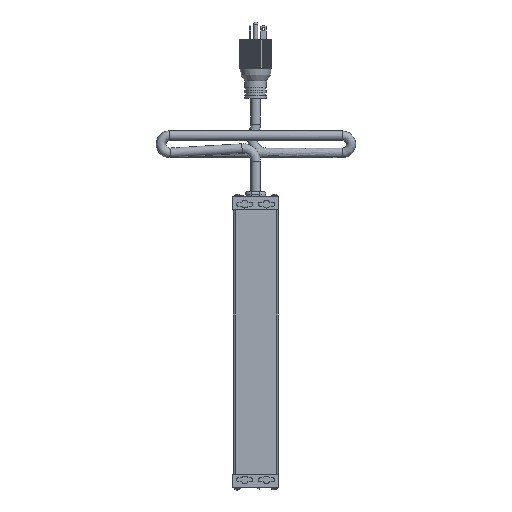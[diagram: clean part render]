
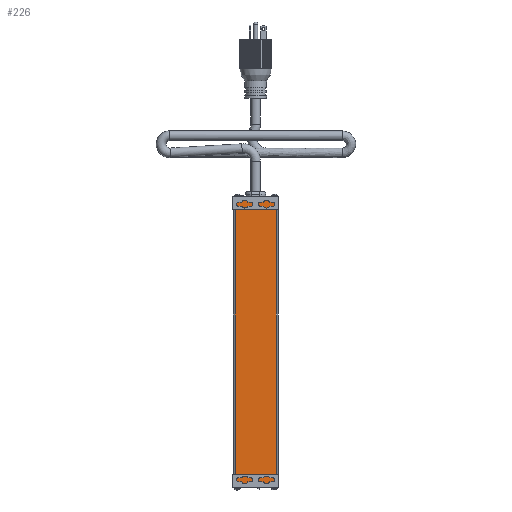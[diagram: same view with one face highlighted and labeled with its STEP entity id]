
A CAD part, front view. The second image highlights one B-rep face of the part: STEP entity #226.
In plain terms, the highlighted planar face has unit normal (0, -1, 0).
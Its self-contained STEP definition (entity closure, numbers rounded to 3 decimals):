
#187=CARTESIAN_POINT('',(0.0,0.0,0.0));
#188=DIRECTION('',(0.0,-1.0,0.0));
#189=DIRECTION('',(0.0,0.0,-1.0));
#190=AXIS2_PLACEMENT_3D('',#187,#188,#189);
#191=PLANE('',#190);
#192=CARTESIAN_POINT('',(23.8,0.,330.81));
#193=VERTEX_POINT('',#192);
#194=CARTESIAN_POINT('',(-23.8,0.,330.81));
#195=VERTEX_POINT('',#194);
#196=CARTESIAN_POINT('',(23.8,0.,330.81));
#197=DIRECTION('',(-1.0,0.0,0.0));
#198=VECTOR('',#197,47.6);
#199=LINE('',#196,#198);
#200=EDGE_CURVE('',#193,#195,#199,.T.);
#201=ORIENTED_EDGE('',*,*,#200,.T.);
#202=CARTESIAN_POINT('',(-23.8,0.,0.0));
#203=VERTEX_POINT('',#202);
#204=CARTESIAN_POINT('',(-23.8,0.,0.0));
#205=DIRECTION('',(0.0,0.0,1.0));
#206=VECTOR('',#205,330.81);
#207=LINE('',#204,#206);
#208=EDGE_CURVE('',#203,#195,#207,.T.);
#209=ORIENTED_EDGE('',*,*,#208,.F.);
#210=CARTESIAN_POINT('',(23.8,0.,0.0));
#211=VERTEX_POINT('',#210);
#212=CARTESIAN_POINT('',(-23.8,0.,0.0));
#213=DIRECTION('',(1.0,0.0,0.0));
#214=VECTOR('',#213,47.6);
#215=LINE('',#212,#214);
#216=EDGE_CURVE('',#203,#211,#215,.T.);
#217=ORIENTED_EDGE('',*,*,#216,.T.);
#218=CARTESIAN_POINT('',(23.8,0.,0.0));
#219=DIRECTION('',(0.0,0.0,1.0));
#220=VECTOR('',#219,330.81);
#221=LINE('',#218,#220);
#222=EDGE_CURVE('',#211,#193,#221,.T.);
#223=ORIENTED_EDGE('',*,*,#222,.T.);
#224=EDGE_LOOP('',(#201,#209,#217,#223));
#225=FACE_OUTER_BOUND('',#224,.T.);
#226=ADVANCED_FACE('',(#225),#191,.T.);
